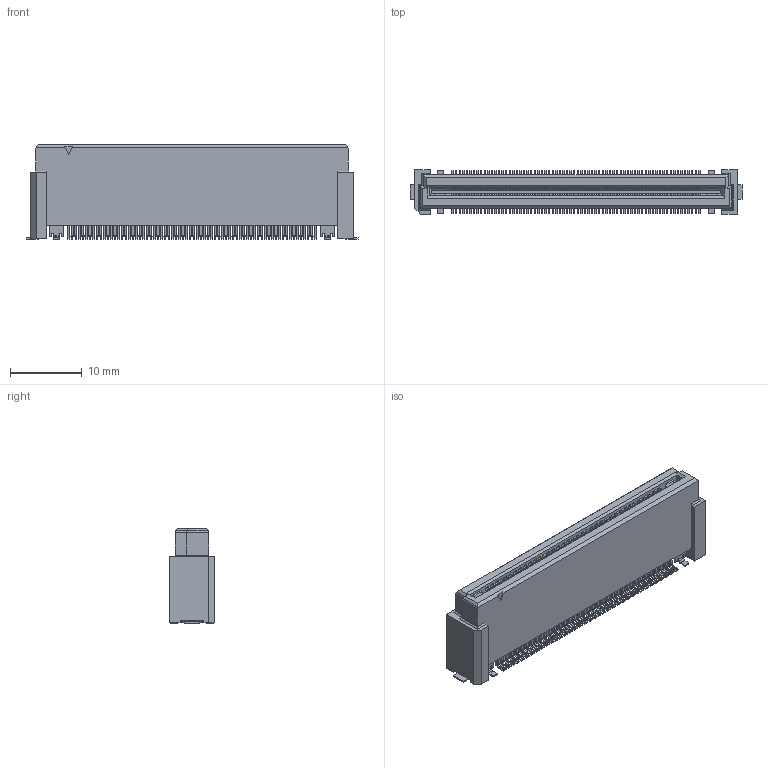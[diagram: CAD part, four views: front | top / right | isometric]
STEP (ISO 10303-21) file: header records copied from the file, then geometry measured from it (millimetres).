
FILE_DESCRIPTION(('Creo Elements/Direct Modeling STEP Export'),'2;1');
FILE_NAME('P3E816_DT10E-140S-15-T.stp','2024-03-13T11:54:00',(''),(''),'Creo Elements/Direct Modeling STEP processor for AP214 (Solid Model)','Creo Elements/Direct Modeling 20.6 25-Mar-2023 (C) Parametric Technology GmbH','');
FILE_SCHEMA(('AUTOMOTIVE_DESIGN { 1 0 10303 214 1 1 1 1 }'));
Products named in the file (2): P3E816_DT10E-140S-15-T
Assembly tree (1 placements, depth 2):
  P3E816_DT10E-140S-15-T
    P3E816_DT10E-140S-15-T
Bounding box: 46.4 x 6.2 x 13.18 mm (x, y, z)
Volume: 2295.2 mm3; surface area: 2426.4 mm2
Topology: 1 solids, 1 shells, 4355 faces, 12298 edges, 8092 vertices
Faces by surface type: plane 3447, cylinder 900, bspline 8
Entity records: 139241 total; most frequent: CARTESIAN_POINT 25205, ORIENTED_EDGE 24596, DIRECTION 22622, EDGE_CURVE 12298, VECTOR 9780, LINE 9780, VERTEX_POINT 8092, AXIS2_PLACEMENT_3D 6421
